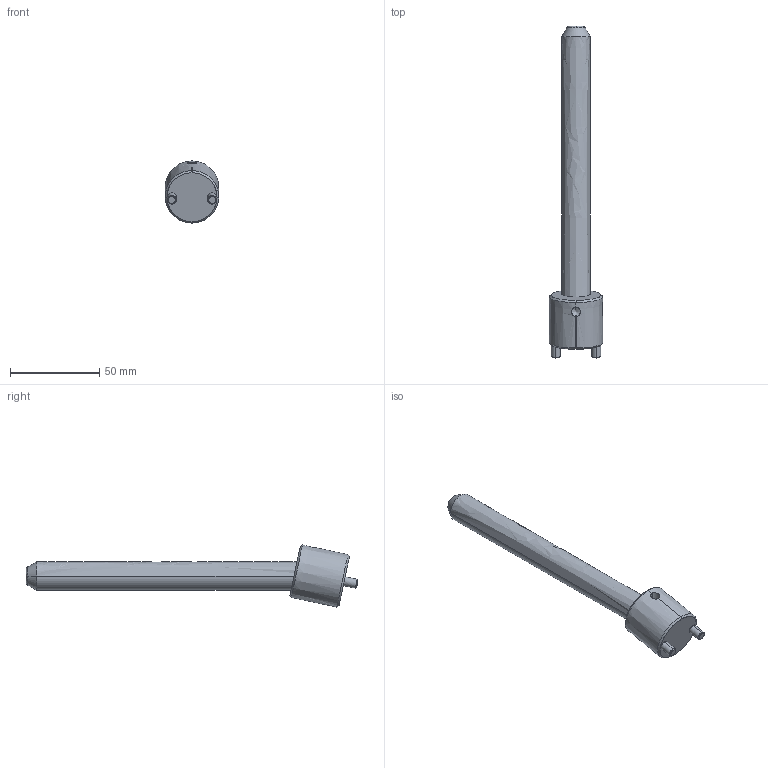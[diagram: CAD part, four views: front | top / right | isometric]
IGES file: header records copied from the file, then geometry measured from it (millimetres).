
Start section: SolidWorks IGES file using analytic representation for surfaces
Global section: file name: D:\Current\W1\Data\CI1216150\CI1216150.IGS; native system: SolidWorks 2017; preprocessor: SolidWorks 2017; author: Ravi Kalvai; date: 231207.180552; units: millimetre
Bounding box: 30 x 185.76 x 34.75 mm (x, y, z)
Surface area: 14483.5 mm2 (no closed solid volume)
Topology: 0 solids, 0 shells, 37 faces, 716 edges, 714 vertices
Faces by surface type: revolution 28, bspline 9
